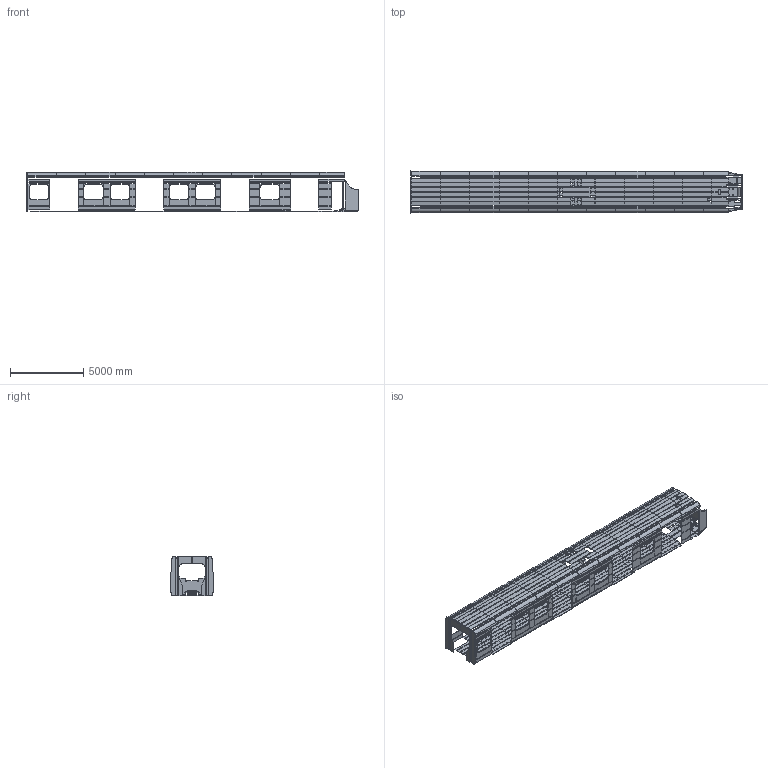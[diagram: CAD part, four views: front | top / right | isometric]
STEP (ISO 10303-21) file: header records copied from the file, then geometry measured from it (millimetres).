
FILE_DESCRIPTION(('CATIA V5 STEP Exchange'),'2;1');
FILE_NAME('J:\00-CAD3D\00-4_Cars\10-SKA_Car\25-Interiors\GZ10.25.14.00000_Thermal_and_acoustic_insulation\GZ10.25.14.00000.stp','2022-02-10T11:01:42+00:00',('none'),('none'),'CATIA Version 5-6 Release 2016','CATIA V5 STEP AP203','none');
FILE_SCHEMA(('CONFIG_CONTROL_DESIGN'));
Length unit declared in the file: millimetre
Products named in the file (12): GZ10.25.14.00000; GZ10.25.14.10000; Type A; Type B; GZ10.25.14.20000; Type A_1; Type B_1; GZ10.25.14.30000; GZ10.25.14.40000; GZ10.25.14.50000; GZ10.25.14.60000; GZ10.25.14.70000
Assembly tree (340 placements, depth 4):
  GZ10.25.14.00000
    GZ10.25.14.10000
      Type A
        #73  x5
        #281  x6
        #456  x5
        #781  x2
        #969  x2
        #1196  x4
        #1410  x4
        #1624  x2
        #1799  x2
        #2000
        #2175
        #2350
        #2525
        #2700
        #2875
        #3050  x2
        #3225  x2
        #3426
        #3601
        #3776
        #4017
        #4258
        #4446
        #4621
        #4796
        #5098  x4
        #5273  x2
        #5500  x2
        #5688
      Type B
        #5884
        #6462  x5
        #7092
        #8275
        #8728  x2
        #9319
    GZ10.25.14.20000
      Type A_1
        #3426
        #4258
        #281  x6
        #4446
        #3601
        #9820
        #10061
        #2525
        #4621
        #4796
        #2350
        #2175
        #2000
        #3225  x2
        #3050  x2
        #1410  x4
        #1196  x4
        #5098  x4
        #456  x5
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Bounding box: 22590 x 2882 x 2670 mm (x, y, z)
Volume: 5746088903.8 mm3; surface area: 422438679.4 mm2
Topology: 378 solids, 400 shells, 5481 faces, 14263 edges, 9548 vertices
Faces by surface type: plane 4947, cylinder 508, extrusion 26
Entity records: 48734 total; most frequent: CARTESIAN_POINT 9468, ORIENTED_EDGE 7636, DIRECTION 7559, EDGE_CURVE 3801, VECTOR 3406, LINE 3380, VERTEX_POINT 2280, AXIS2_PLACEMENT_3D 2236
